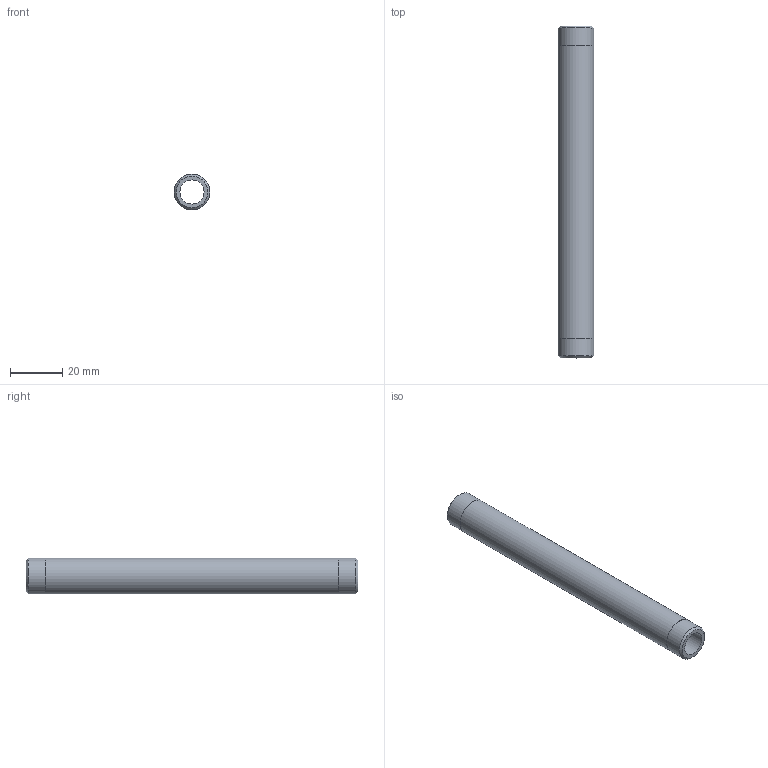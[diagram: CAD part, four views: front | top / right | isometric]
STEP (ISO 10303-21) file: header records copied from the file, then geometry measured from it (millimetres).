
FILE_DESCRIPTION(/* description */ (''),/* implementation_level */ '2;1');
FILE_NAME(/* name */ 'C:/Users/drich/Desktop/BPN14-5 v1.step',/* time_stamp */ '2020-01-03T14:37:27-06:00',/* author */ (''),/* organization */ (''),/* preprocessor_version */ 'ST-DEVELOPER v18',/* originating_system */ 'Autodesk Translation Framework v8.12.0.6',/* authorisation */ '');
FILE_SCHEMA (('AUTOMOTIVE_DESIGN { 1 0 10303 214 3 1 1 }'));
Length unit declared in the file: inch
Products named in the file (1): BPN14-5
Bounding box: 13.72 x 127 x 13.72 mm (x, y, z)
Volume: 10198 mm3; surface area: 9280.2 mm2
Topology: 1 solids, 1 shells, 10 faces, 24 edges, 18 vertices
Faces by surface type: cylinder 4, plane 4, cone 2
Full cylindrical faces by diameter (mm): 9.246 x1, 13.665 x2, 13.716 x1
Entity records: 360 total; most frequent: DIRECTION 64, CARTESIAN_POINT 53, ORIENTED_EDGE 48, AXIS2_PLACEMENT_3D 29, EDGE_CURVE 24, CIRCLE 18, VERTEX_POINT 18, EDGE_LOOP 14
